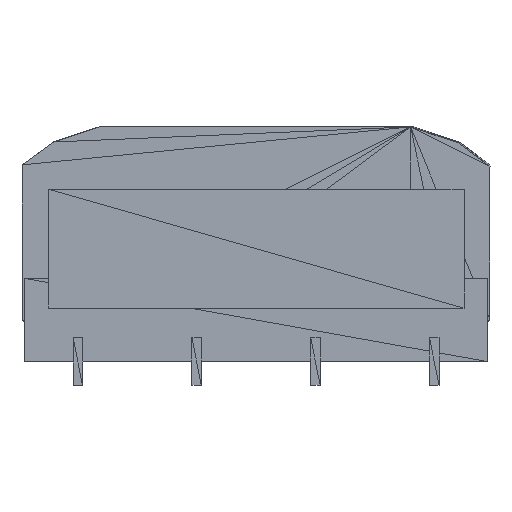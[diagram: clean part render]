
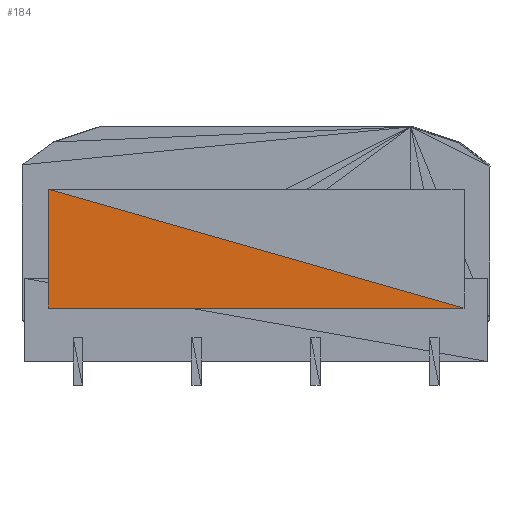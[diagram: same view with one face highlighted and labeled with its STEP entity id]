
A CAD part, left-side view. The second image highlights one B-rep face of the part: STEP entity #184.
In plain terms, the highlighted planar face has unit normal (-1, 0, 0).
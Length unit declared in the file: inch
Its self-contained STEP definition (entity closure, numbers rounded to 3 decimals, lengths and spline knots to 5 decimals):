
#68=CARTESIAN_POINT('',(-1.25,0.87485,0.72518));
#69=VERTEX_POINT('',#68);
#98=CARTESIAN_POINT('',(-1.25,-0.87505,0.22482));
#99=VERTEX_POINT('',#98);
#100=CARTESIAN_POINT('',(-1.25,-0.87505,0.22482));
#101=DIRECTION('',(0.,0.961,0.275));
#102=VECTOR('',#101,1.82003);
#103=LINE('',#100,#102);
#104=EDGE_CURVE('',#99,#69,#103,.T.);
#162=CARTESIAN_POINT('',(-1.25,0.87485,0.72518));
#163=DIRECTION('',(1.,0.,0.));
#164=DIRECTION('',(0.,1.,0.));
#165=AXIS2_PLACEMENT_3D('',#162,#163,#164);
#166=PLANE('',#165);
#167=CARTESIAN_POINT('',(-1.25,0.87495,0.22518));
#168=VERTEX_POINT('',#167);
#169=CARTESIAN_POINT('',(-1.25,0.87495,0.22518));
#170=DIRECTION('',(0.,0.,1.));
#171=VECTOR('',#170,0.5);
#172=LINE('',#169,#171);
#173=EDGE_CURVE('',#168,#69,#172,.T.);
#174=ORIENTED_EDGE('',*,*,#173,.F.);
#175=CARTESIAN_POINT('',(-1.25,-0.87505,0.22482));
#176=DIRECTION('',(0.,1.,0.));
#177=VECTOR('',#176,1.75);
#178=LINE('',#175,#177);
#179=EDGE_CURVE('',#99,#168,#178,.T.);
#180=ORIENTED_EDGE('',*,*,#179,.F.);
#181=ORIENTED_EDGE('',*,*,#104,.T.);
#182=EDGE_LOOP('',(#174,#180,#181));
#183=FACE_BOUND('',#182,.T.);
#184=ADVANCED_FACE('',(#183),#166,.F.);
